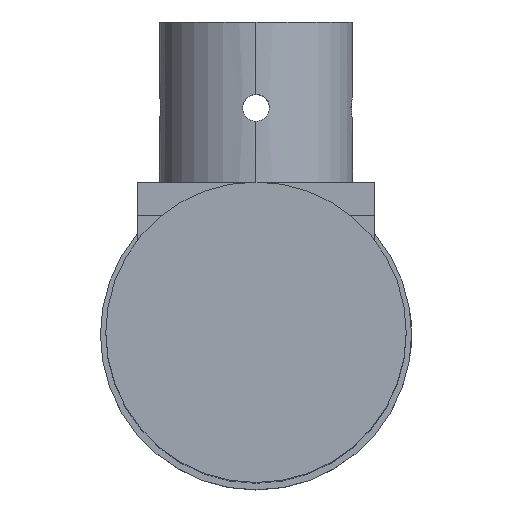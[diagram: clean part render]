
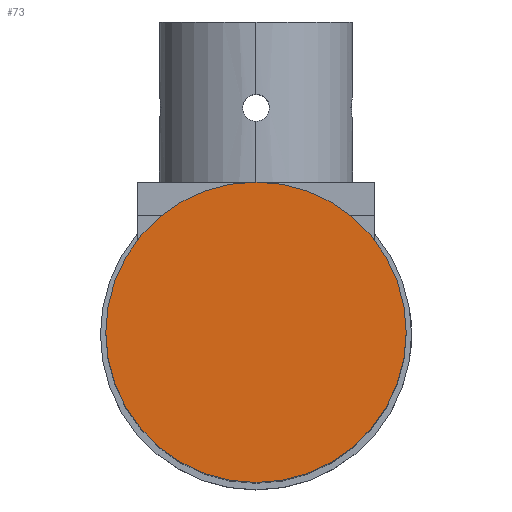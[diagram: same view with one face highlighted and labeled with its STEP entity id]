
A CAD part, top view. The second image highlights one B-rep face of the part: STEP entity #73.
In plain terms, the highlighted planar face has unit normal (0, 0, 1).
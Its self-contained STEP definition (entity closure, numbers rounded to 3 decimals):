
#73 = ADVANCED_FACE ( 'NONE', ( #669 ), #1482, .T. ) ;
#81 = ORIENTED_EDGE ( 'NONE', *, *, #2165, .T. ) ;
#169 = VERTEX_POINT ( 'NONE', #489 ) ;
#330 = DIRECTION ( 'NONE',  ( 0., 0., 1. ) ) ;
#345 = CARTESIAN_POINT ( 'NONE',  ( 0., 0., 117. ) ) ;
#379 = DIRECTION ( 'NONE',  ( 0., 0., 1. ) ) ;
#489 = CARTESIAN_POINT ( 'NONE',  ( 14., 0., 117. ) ) ;
#669 = FACE_OUTER_BOUND ( 'NONE', #985, .T. ) ;
#742 = AXIS2_PLACEMENT_3D ( 'NONE', #345, #330, #1591 ) ;
#785 = DIRECTION ( 'NONE',  ( 0., 0., 1. ) ) ;
#903 = DIRECTION ( 'NONE',  ( 1., 0., 0. ) ) ;
#929 = CARTESIAN_POINT ( 'NONE',  ( 0., 0., 117. ) ) ;
#985 = EDGE_LOOP ( 'NONE', ( #81, #1019 ) ) ;
#1000 = AXIS2_PLACEMENT_3D ( 'NONE', #929, #379, #903 ) ;
#1019 = ORIENTED_EDGE ( 'NONE', *, *, #1064, .T. ) ;
#1064 = EDGE_CURVE ( 'NONE', #169, #1710, #1445, .T. ) ;
#1283 = CARTESIAN_POINT ( 'NONE',  ( -14., 0., 117. ) ) ;
#1445 = CIRCLE ( 'NONE', #742, 14. ) ;
#1482 = PLANE ( 'NONE',  #1966 ) ;
#1591 = DIRECTION ( 'NONE',  ( 1., 0., 0. ) ) ;
#1710 = VERTEX_POINT ( 'NONE', #1283 ) ;
#1862 = CARTESIAN_POINT ( 'NONE',  ( 0., 0., 117. ) ) ;
#1966 = AXIS2_PLACEMENT_3D ( 'NONE', #1862, #785, #2205 ) ;
#2165 = EDGE_CURVE ( 'NONE', #1710, #169, #2325, .T. ) ;
#2205 = DIRECTION ( 'NONE',  ( 1., 0., 0. ) ) ;
#2325 = CIRCLE ( 'NONE', #1000, 14. ) ;
